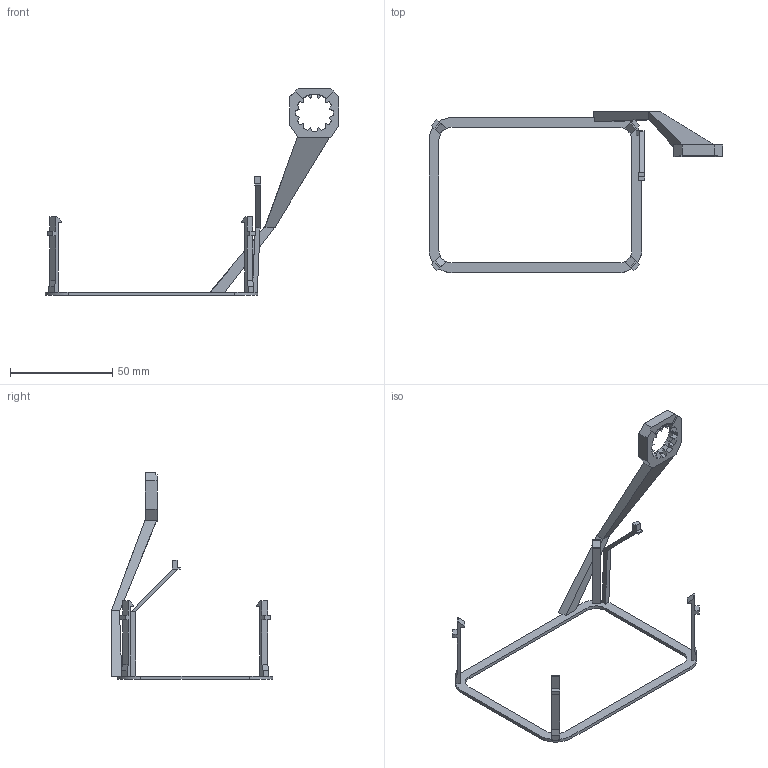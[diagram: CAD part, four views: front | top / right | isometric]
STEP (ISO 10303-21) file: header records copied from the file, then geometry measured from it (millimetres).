
FILE_DESCRIPTION(('Open CASCADE Model'),'2;1');
FILE_NAME('Open CASCADE Shape Model','2026-10-14T01:56:36',('Author'),( 'Open CASCADE'),'Open CASCADE STEP processor 8.0','build123d', 'Unknown');
FILE_SCHEMA(('AUTOMOTIVE_DESIGN { 1 0 10303 214 1 1 1 1 }'));
Length unit declared in the file: millimetre
Products named in the file (1): COMPOUND
Bounding box: 143.85 x 78.95 x 101.2 mm (x, y, z)
Volume: 8724.9 mm3; surface area: 10240.6 mm2
Topology: 1 solids, 1 shells, 249 faces, 732 edges, 486 vertices
Faces by surface type: plane 203, cylinder 32, bspline 14
Entity records: 17357 total; most frequent: CARTESIAN_POINT 3951, DIRECTION 2094, ORIENTED_EDGE 1464, PCURVE 1464, DEFINITIONAL_REPRESENTATION 1464, LINE 1430, VECTOR 1430, EDGE_CURVE 732
